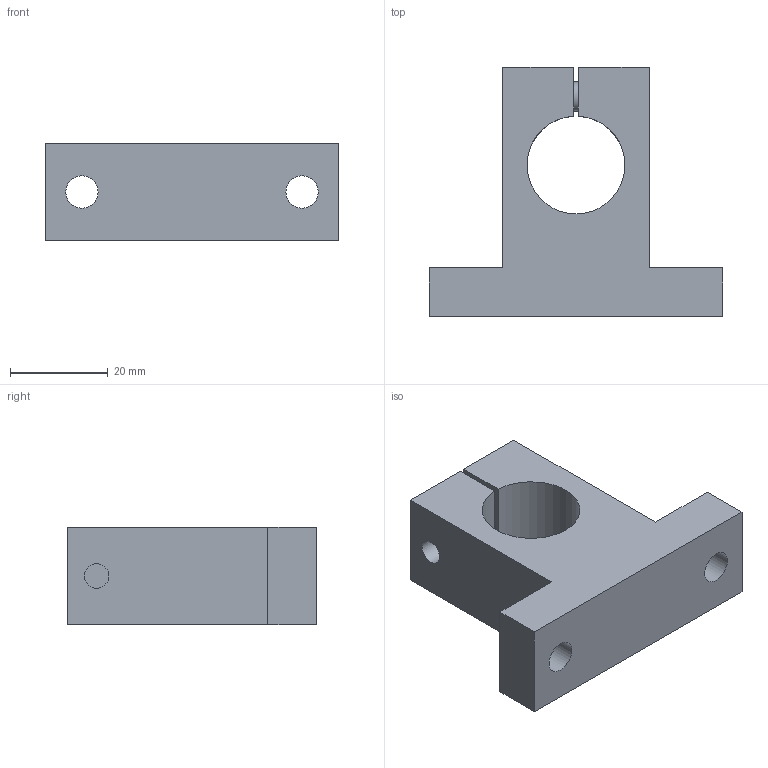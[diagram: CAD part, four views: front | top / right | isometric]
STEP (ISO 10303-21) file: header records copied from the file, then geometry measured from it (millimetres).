
FILE_DESCRIPTION(('STEP AP203'),'1');
FILE_NAME('//192.168.1.1/share/s-4 技術開発/s-4-14_個人別フォルダ/橋詰/09_CAD_DATA/3D/HP用/3Ｄモデル/SN-A/SN-20A.step','2021-09-16T02:44:28',(' '),(' '),'Spatial InterOp 3D',' ',' ');
FILE_SCHEMA(('CONFIG_CONTROL_DESIGN'));
Length unit declared in the file: millimetre
Products named in the file (3): 1; 2; 3
Bounding box: 60 x 51 x 20 mm (x, y, z)
Volume: 29225.9 mm3; surface area: 10625.9 mm2
Topology: 2 solids, 2 shells, 34 faces, 85 edges, 59 vertices
Faces by surface type: plane 24, cylinder 9, cone 1
Full cylindrical faces by diameter (mm): 5 x1, 6 x2, 6.6 x3, 10 x1, 11 x1
Entity records: 1108 total; most frequent: CARTESIAN_POINT 193, DIRECTION 161, ORIENTED_EDGE 140, EDGE_CURVE 70, AXIS2_PLACEMENT_3D 54, EDGE_LOOP 54, LINE 53, VECTOR 53
